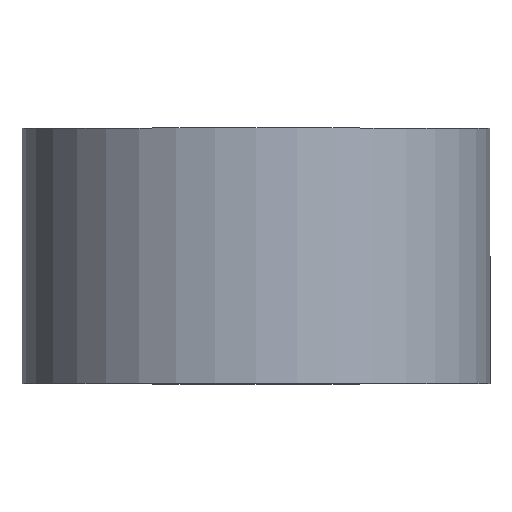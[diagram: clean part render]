
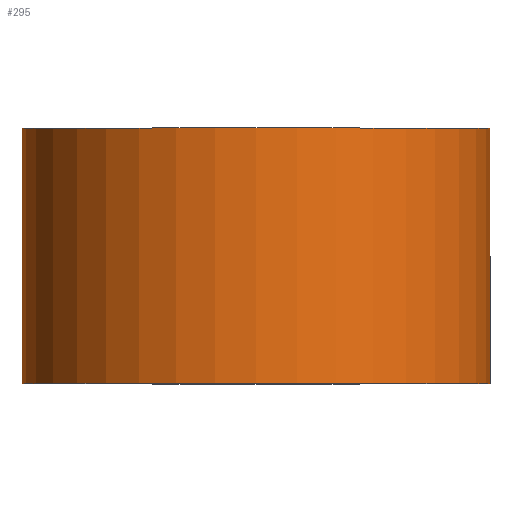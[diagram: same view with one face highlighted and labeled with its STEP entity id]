
A CAD part, top view. The second image highlights one B-rep face of the part: STEP entity #295.
In plain terms, the highlighted cylindrical face has radius 27.5 mm (diameter 55 mm), a partial arc.
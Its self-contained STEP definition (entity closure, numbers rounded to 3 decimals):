
#2 = VERTEX_POINT ( 'NONE', #230 ) ;
#6 = ORIENTED_EDGE ( 'NONE', *, *, #140, .F. ) ;
#9 = DIRECTION ( 'NONE',  ( 0., 1., 0. ) ) ;
#19 = CARTESIAN_POINT ( 'NONE',  ( 0., 0., 0. ) ) ;
#25 = DIRECTION ( 'NONE',  ( -1., 0., 0. ) ) ;
#26 = CIRCLE ( 'NONE', #55, 27.5 ) ;
#27 = VERTEX_POINT ( 'NONE', #301 ) ;
#53 = DIRECTION ( 'NONE',  ( 0., 1., 0. ) ) ;
#55 = AXIS2_PLACEMENT_3D ( 'NONE', #264, #213, #25 ) ;
#61 = LINE ( 'NONE', #91, #158 ) ;
#91 = CARTESIAN_POINT ( 'NONE',  ( -27.5, 0., 0. ) ) ;
#104 = DIRECTION ( 'NONE',  ( 0., 1., 0. ) ) ;
#113 = CIRCLE ( 'NONE', #199, 27.5 ) ;
#125 = FACE_OUTER_BOUND ( 'NONE', #276, .T. ) ;
#138 = ORIENTED_EDGE ( 'NONE', *, *, #221, .T. ) ;
#140 = EDGE_CURVE ( 'NONE', #27, #219, #26, .T. ) ;
#145 = DIRECTION ( 'NONE',  ( -1., 0., 0. ) ) ;
#152 = DIRECTION ( 'NONE',  ( -1., 0., 0. ) ) ;
#156 = EDGE_CURVE ( 'NONE', #2, #27, #61, .T. ) ;
#158 = VECTOR ( 'NONE', #9, 1000. ) ;
#177 = EDGE_CURVE ( 'NONE', #2, #240, #113, .T. ) ;
#187 = CYLINDRICAL_SURFACE ( 'NONE', #275, 27.5 ) ;
#197 = CARTESIAN_POINT ( 'NONE',  ( 0., 0., 0. ) ) ;
#199 = AXIS2_PLACEMENT_3D ( 'NONE', #197, #53, #145 ) ;
#200 = VECTOR ( 'NONE', #104, 1000. ) ;
#213 = DIRECTION ( 'NONE',  ( 0., 1., 0. ) ) ;
#215 = CARTESIAN_POINT ( 'NONE',  ( 27.5, 0., 0. ) ) ;
#219 = VERTEX_POINT ( 'NONE', #266 ) ;
#221 = EDGE_CURVE ( 'NONE', #240, #219, #258, .T. ) ;
#230 = CARTESIAN_POINT ( 'NONE',  ( -27.5, 0., 0. ) ) ;
#240 = VERTEX_POINT ( 'NONE', #297 ) ;
#252 = ORIENTED_EDGE ( 'NONE', *, *, #156, .F. ) ;
#258 = LINE ( 'NONE', #215, #200 ) ;
#264 = CARTESIAN_POINT ( 'NONE',  ( 0., 30., 0. ) ) ;
#266 = CARTESIAN_POINT ( 'NONE',  ( 27.5, 30., 0. ) ) ;
#271 = DIRECTION ( 'NONE',  ( 0., 1., 0. ) ) ;
#275 = AXIS2_PLACEMENT_3D ( 'NONE', #19, #271, #152 ) ;
#276 = EDGE_LOOP ( 'NONE', ( #277, #138, #6, #252 ) ) ;
#277 = ORIENTED_EDGE ( 'NONE', *, *, #177, .T. ) ;
#295 = ADVANCED_FACE ( 'NONE', ( #125 ), #187, .T. ) ;
#297 = CARTESIAN_POINT ( 'NONE',  ( 27.5, 0., 0. ) ) ;
#301 = CARTESIAN_POINT ( 'NONE',  ( -27.5, 30., 0. ) ) ;
